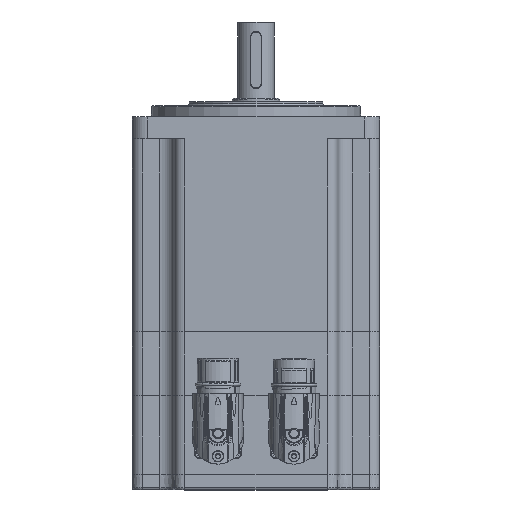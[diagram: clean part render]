
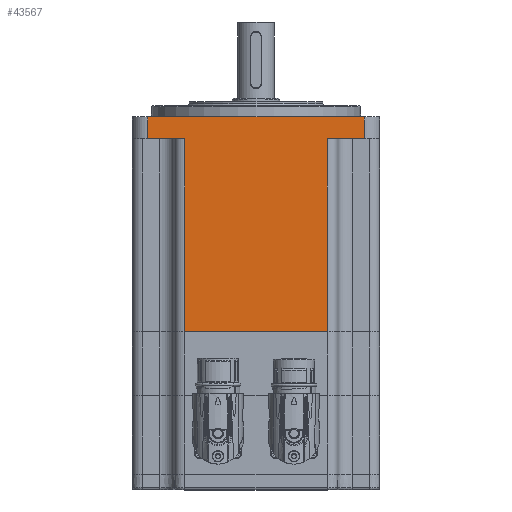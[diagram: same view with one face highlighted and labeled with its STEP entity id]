
A CAD part, top view. The second image highlights one B-rep face of the part: STEP entity #43567.
In plain terms, the highlighted planar face has unit normal (0, 0, 1).
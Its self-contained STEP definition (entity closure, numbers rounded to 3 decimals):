
#16476=LINE('',#69067,#18407);
#16526=LINE('',#70048,#18457);
#16531=LINE('',#70075,#18462);
#16550=LINE('',#70151,#18481);
#16551=LINE('',#70152,#18482);
#16552=LINE('',#70154,#18483);
#16553=LINE('',#70156,#18484);
#16554=LINE('',#70157,#18485);
#18407=VECTOR('',#52999,1000.);
#18457=VECTOR('',#53473,1000.);
#18462=VECTOR('',#53496,1000.);
#18481=VECTOR('',#53575,1000.);
#18482=VECTOR('',#53576,1000.);
#18483=VECTOR('',#53577,1000.);
#18484=VECTOR('',#53578,1000.);
#18485=VECTOR('',#53579,1000.);
#25338=ORIENTED_EDGE('',*,*,#30461,.F.);
#25339=ORIENTED_EDGE('',*,*,#30761,.T.);
#25340=ORIENTED_EDGE('',*,*,#30725,.F.);
#25341=ORIENTED_EDGE('',*,*,#30762,.T.);
#25342=ORIENTED_EDGE('',*,*,#30763,.F.);
#25343=ORIENTED_EDGE('',*,*,#30764,.T.);
#25344=ORIENTED_EDGE('',*,*,#30713,.F.);
#25345=ORIENTED_EDGE('',*,*,#30765,.T.);
#30461=EDGE_CURVE('',#33887,#33888,#16476,.T.);
#30713=EDGE_CURVE('',#34049,#34050,#16526,.T.);
#30725=EDGE_CURVE('',#34061,#34062,#16531,.T.);
#30761=EDGE_CURVE('',#33887,#34062,#16550,.T.);
#30762=EDGE_CURVE('',#34061,#34089,#16551,.T.);
#30763=EDGE_CURVE('',#34090,#34089,#16552,.T.);
#30764=EDGE_CURVE('',#34090,#34050,#16553,.F.);
#30765=EDGE_CURVE('',#34049,#33888,#16554,.T.);
#33887=VERTEX_POINT('',#69066);
#33888=VERTEX_POINT('',#69068);
#34049=VERTEX_POINT('',#70049);
#34050=VERTEX_POINT('',#70050);
#34061=VERTEX_POINT('',#70074);
#34062=VERTEX_POINT('',#70076);
#34089=VERTEX_POINT('',#70153);
#34090=VERTEX_POINT('',#70155);
#38075=EDGE_LOOP('',(#25338,#25339,#25340,#25341,#25342,#25343,#25344,#25345));
#40657=FACE_BOUND('',#38075,.T.);
#41991=PLANE('',#46437);
#43567=ADVANCED_FACE('',(#40657),#41991,.T.);
#46437=AXIS2_PLACEMENT_3D('',#70150,#53573,#53574);
#52999=DIRECTION('',(1.,0.,0.));
#53473=DIRECTION('',(1.,0.,0.));
#53496=DIRECTION('',(1.,0.,0.));
#53573=DIRECTION('',(0.,0.,1.));
#53574=DIRECTION('',(0.,-1.,0.));
#53575=DIRECTION('',(0.,-1.,0.));
#53576=DIRECTION('',(0.,-1.,0.));
#53577=DIRECTION('',(-1.,0.,0.));
#53578=DIRECTION('',(0.,-1.,0.));
#53579=DIRECTION('',(0.,1.,0.));
#69066=CARTESIAN_POINT('',(-37.5,114.2,65.));
#69067=CARTESIAN_POINT('',(65.,114.2,65.));
#69068=CARTESIAN_POINT('',(37.5,114.2,65.));
#70048=CARTESIAN_POINT('',(65.,12.7,65.));
#70049=CARTESIAN_POINT('',(37.5,12.7,65.));
#70050=CARTESIAN_POINT('',(57.,12.7,65.));
#70074=CARTESIAN_POINT('',(-57.,12.7,65.));
#70075=CARTESIAN_POINT('',(65.,12.7,65.));
#70076=CARTESIAN_POINT('',(-37.5,12.7,65.));
#70150=CARTESIAN_POINT('',(65.,309.164,65.));
#70151=CARTESIAN_POINT('',(-37.5,309.164,65.));
#70152=CARTESIAN_POINT('',(-57.,309.164,65.));
#70153=CARTESIAN_POINT('',(-57.,1.2,65.));
#70154=CARTESIAN_POINT('',(65.,1.2,65.));
#70155=CARTESIAN_POINT('',(57.,1.2,65.));
#70156=CARTESIAN_POINT('',(57.,309.164,65.));
#70157=CARTESIAN_POINT('',(37.5,309.164,65.));
